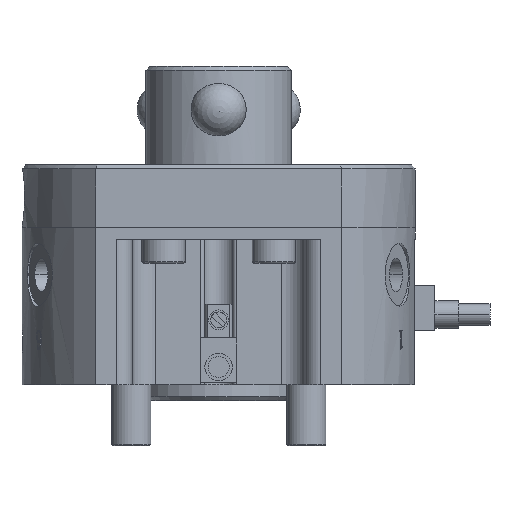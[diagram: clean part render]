
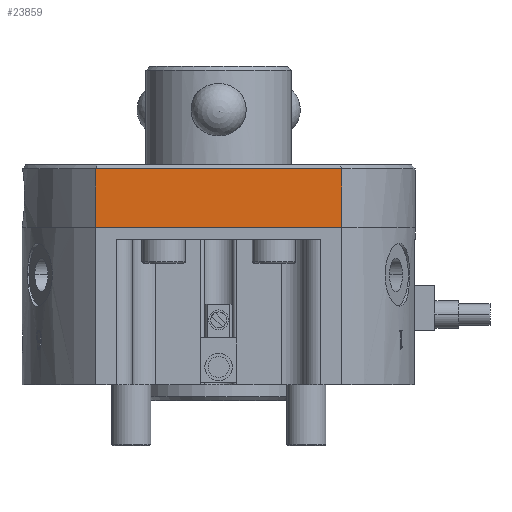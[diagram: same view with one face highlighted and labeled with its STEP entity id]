
A CAD part, front view. The second image highlights one B-rep face of the part: STEP entity #23859.
In plain terms, the highlighted planar face has unit normal (0, -1, 0).
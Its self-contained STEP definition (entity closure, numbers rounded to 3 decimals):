
#1061 = CARTESIAN_POINT ( 'NONE',  ( 15.644, -19.5, -8. ) ) ;
#1378 = DIRECTION ( 'NONE',  ( 0., 0., 1. ) ) ;
#1801 = LINE ( 'NONE', #27342, #32565 ) ;
#2130 = VECTOR ( 'NONE', #22839, 1000. ) ;
#2634 = EDGE_CURVE ( 'NONE', #7512, #4130, #33345, .T. ) ;
#4130 = VERTEX_POINT ( 'NONE', #15837 ) ;
#5262 = ORIENTED_EDGE ( 'NONE', *, *, #2634, .T. ) ;
#5738 = EDGE_CURVE ( 'NONE', #16204, #7512, #1801, .T. ) ;
#6754 = AXIS2_PLACEMENT_3D ( 'NONE', #29963, #16694, #16910 ) ;
#7044 = DIRECTION ( 'NONE',  ( 1., 0., 0. ) ) ;
#7313 = LINE ( 'NONE', #30910, #27436 ) ;
#7512 = VERTEX_POINT ( 'NONE', #19957 ) ;
#7545 = ORIENTED_EDGE ( 'NONE', *, *, #33764, .F. ) ;
#8275 = CARTESIAN_POINT ( 'NONE',  ( -15.644, -19.5, -8. ) ) ;
#8870 = PLANE ( 'NONE',  #6754 ) ;
#10175 = LINE ( 'NONE', #10503, #30699 ) ;
#10503 = CARTESIAN_POINT ( 'NONE',  ( -15.644, -19.5, -8. ) ) ;
#12364 = EDGE_CURVE ( 'NONE', #20794, #16204, #10175, .T. ) ;
#13438 = FACE_OUTER_BOUND ( 'NONE', #23591, .T. ) ;
#13577 = ORIENTED_EDGE ( 'NONE', *, *, #5738, .T. ) ;
#15837 = CARTESIAN_POINT ( 'NONE',  ( -15.644, -19.5, -0.5 ) ) ;
#16204 = VERTEX_POINT ( 'NONE', #1061 ) ;
#16694 = DIRECTION ( 'NONE',  ( 0., -1., 0. ) ) ;
#16910 = DIRECTION ( 'NONE',  ( 0., 0., -1. ) ) ;
#17645 = CARTESIAN_POINT ( 'NONE',  ( -15.644, -19.5, -0.5 ) ) ;
#19957 = CARTESIAN_POINT ( 'NONE',  ( 15.644, -19.5, -0.5 ) ) ;
#20794 = VERTEX_POINT ( 'NONE', #8275 ) ;
#22839 = DIRECTION ( 'NONE',  ( -1., 0., 0. ) ) ;
#23591 = EDGE_LOOP ( 'NONE', ( #13577, #5262, #7545, #29753 ) ) ;
#23859 = ADVANCED_FACE ( 'NONE', ( #13438 ), #8870, .T. ) ;
#27342 = CARTESIAN_POINT ( 'NONE',  ( 15.644, -19.5, -8. ) ) ;
#27436 = VECTOR ( 'NONE', #33564, 1000. ) ;
#29753 = ORIENTED_EDGE ( 'NONE', *, *, #12364, .T. ) ;
#29963 = CARTESIAN_POINT ( 'NONE',  ( -15.644, -19.5, -8. ) ) ;
#30699 = VECTOR ( 'NONE', #7044, 1000. ) ;
#30910 = CARTESIAN_POINT ( 'NONE',  ( -15.644, -19.5, -8. ) ) ;
#32565 = VECTOR ( 'NONE', #1378, 1000. ) ;
#33345 = LINE ( 'NONE', #17645, #2130 ) ;
#33564 = DIRECTION ( 'NONE',  ( 0., 0., 1. ) ) ;
#33764 = EDGE_CURVE ( 'NONE', #20794, #4130, #7313, .T. ) ;
